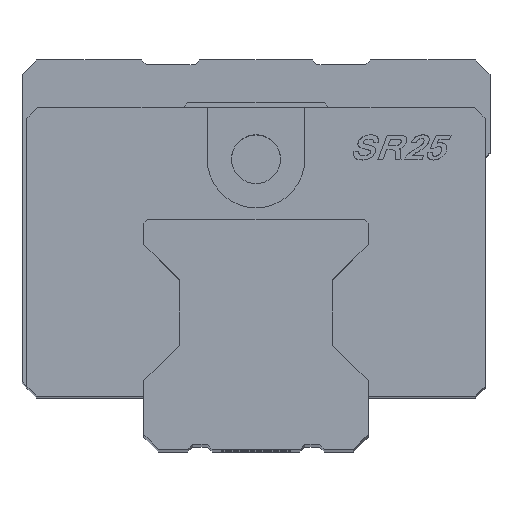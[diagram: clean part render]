
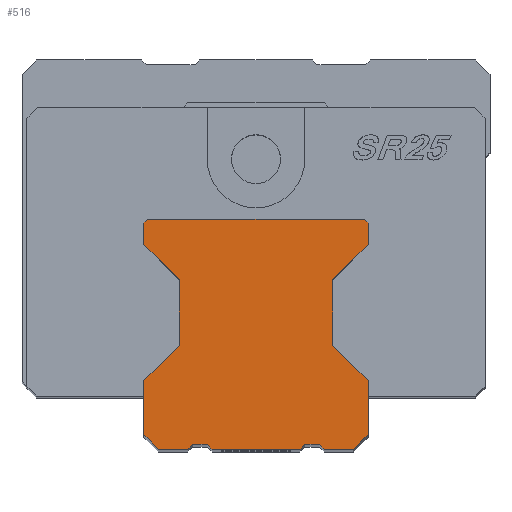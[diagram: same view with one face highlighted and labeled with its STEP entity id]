
A CAD part, top view. The second image highlights one B-rep face of the part: STEP entity #516.
In plain terms, the highlighted planar face has unit normal (0, 0, 1).
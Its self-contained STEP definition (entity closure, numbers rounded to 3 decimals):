
#291=FACE_OUTER_BOUND('',#1181,.T.);
#516=ADVANCED_FACE('',(#291),#738,.T.);
#738=PLANE('',#5096);
#1181=EDGE_LOOP('',(#2302,#2303,#2304,#2305,#2306,#2307,#2308,#2309,#2310,
#2311,#2312,#2313,#2314,#2315,#2316,#2317,#2318,#2319,#2320,#2321,#2322,
#2323,#2324,#2325));
#2302=ORIENTED_EDGE('',*,*,#3765,.F.);
#2303=ORIENTED_EDGE('',*,*,#3789,.F.);
#2304=ORIENTED_EDGE('',*,*,#3847,.F.);
#2305=ORIENTED_EDGE('',*,*,#3848,.F.);
#2306=ORIENTED_EDGE('',*,*,#3849,.F.);
#2307=ORIENTED_EDGE('',*,*,#3850,.F.);
#2308=ORIENTED_EDGE('',*,*,#3851,.F.);
#2309=ORIENTED_EDGE('',*,*,#3852,.F.);
#2310=ORIENTED_EDGE('',*,*,#3841,.F.);
#2311=ORIENTED_EDGE('',*,*,#3838,.F.);
#2312=ORIENTED_EDGE('',*,*,#3836,.F.);
#2313=ORIENTED_EDGE('',*,*,#3834,.F.);
#2314=ORIENTED_EDGE('',*,*,#3832,.F.);
#2315=ORIENTED_EDGE('',*,*,#3830,.F.);
#2316=ORIENTED_EDGE('',*,*,#3828,.F.);
#2317=ORIENTED_EDGE('',*,*,#3787,.F.);
#2318=ORIENTED_EDGE('',*,*,#3768,.F.);
#2319=ORIENTED_EDGE('',*,*,#3785,.F.);
#2320=ORIENTED_EDGE('',*,*,#3784,.F.);
#2321=ORIENTED_EDGE('',*,*,#3782,.F.);
#2322=ORIENTED_EDGE('',*,*,#3780,.F.);
#2323=ORIENTED_EDGE('',*,*,#3774,.F.);
#2324=ORIENTED_EDGE('',*,*,#3772,.F.);
#2325=ORIENTED_EDGE('',*,*,#3770,.F.);
#3229=VERTEX_POINT('',#7266);
#3230=VERTEX_POINT('',#7268);
#3231=VERTEX_POINT('',#7272);
#3232=VERTEX_POINT('',#7274);
#3233=VERTEX_POINT('',#7278);
#3234=VERTEX_POINT('',#7282);
#3235=VERTEX_POINT('',#7286);
#3236=VERTEX_POINT('',#7290);
#3240=VERTEX_POINT('',#7301);
#3241=VERTEX_POINT('',#7305);
#3242=VERTEX_POINT('',#7311);
#3243=VERTEX_POINT('',#7315);
#3271=VERTEX_POINT('',#7394);
#3272=VERTEX_POINT('',#7398);
#3273=VERTEX_POINT('',#7402);
#3274=VERTEX_POINT('',#7406);
#3275=VERTEX_POINT('',#7410);
#3276=VERTEX_POINT('',#7414);
#3277=VERTEX_POINT('',#7418);
#3283=VERTEX_POINT('',#7432);
#3284=VERTEX_POINT('',#7434);
#3285=VERTEX_POINT('',#7436);
#3286=VERTEX_POINT('',#7438);
#3287=VERTEX_POINT('',#7440);
#3765=EDGE_CURVE('',#3230,#3229,#4250,.T.);
#3768=EDGE_CURVE('',#3232,#3231,#4253,.T.);
#3770=EDGE_CURVE('',#3229,#3233,#4255,.T.);
#3772=EDGE_CURVE('',#3233,#3234,#4257,.T.);
#3774=EDGE_CURVE('',#3234,#3235,#4259,.T.);
#3780=EDGE_CURVE('',#3235,#3236,#4261,.T.);
#3782=EDGE_CURVE('',#3236,#3240,#4263,.T.);
#3784=EDGE_CURVE('',#3240,#3241,#4265,.T.);
#3785=EDGE_CURVE('',#3241,#3232,#4266,.T.);
#3787=EDGE_CURVE('',#3231,#3242,#4268,.T.);
#3789=EDGE_CURVE('',#3243,#3230,#4270,.T.);
#3828=EDGE_CURVE('',#3242,#3271,#4305,.T.);
#3830=EDGE_CURVE('',#3271,#3272,#4307,.T.);
#3832=EDGE_CURVE('',#3272,#3273,#4309,.T.);
#3834=EDGE_CURVE('',#3273,#3274,#4311,.T.);
#3836=EDGE_CURVE('',#3274,#3275,#4313,.T.);
#3838=EDGE_CURVE('',#3275,#3276,#4315,.T.);
#3841=EDGE_CURVE('',#3276,#3277,#4318,.T.);
#3847=EDGE_CURVE('',#3283,#3243,#4319,.T.);
#3848=EDGE_CURVE('',#3284,#3283,#4320,.T.);
#3849=EDGE_CURVE('',#3285,#3284,#4321,.T.);
#3850=EDGE_CURVE('',#3286,#3285,#4322,.T.);
#3851=EDGE_CURVE('',#3287,#3286,#4323,.T.);
#3852=EDGE_CURVE('',#3277,#3287,#4324,.T.);
#4250=LINE('',#7269,#4608);
#4253=LINE('',#7275,#4611);
#4255=LINE('',#7279,#4613);
#4257=LINE('',#7283,#4615);
#4259=LINE('',#7287,#4617);
#4261=LINE('',#7298,#4619);
#4263=LINE('',#7302,#4621);
#4265=LINE('',#7306,#4623);
#4266=LINE('',#7308,#4624);
#4268=LINE('',#7312,#4626);
#4270=LINE('',#7316,#4628);
#4305=LINE('',#7393,#4663);
#4307=LINE('',#7397,#4665);
#4309=LINE('',#7401,#4667);
#4311=LINE('',#7405,#4669);
#4313=LINE('',#7409,#4671);
#4315=LINE('',#7413,#4673);
#4318=LINE('',#7419,#4676);
#4319=LINE('',#7431,#4677);
#4320=LINE('',#7433,#4678);
#4321=LINE('',#7435,#4679);
#4322=LINE('',#7437,#4680);
#4323=LINE('',#7439,#4681);
#4324=LINE('',#7441,#4682);
#4608=VECTOR('',#5679,1.);
#4611=VECTOR('',#5684,1.);
#4613=VECTOR('',#5688,1.);
#4615=VECTOR('',#5692,1.);
#4617=VECTOR('',#5696,1.);
#4619=VECTOR('',#5708,1.);
#4621=VECTOR('',#5712,1.);
#4623=VECTOR('',#5716,1.);
#4624=VECTOR('',#5719,1.);
#4626=VECTOR('',#5723,1.);
#4628=VECTOR('',#5727,1.);
#4663=VECTOR('',#5792,1.);
#4665=VECTOR('',#5796,1.);
#4667=VECTOR('',#5800,1.);
#4669=VECTOR('',#5804,1.);
#4671=VECTOR('',#5808,1.);
#4673=VECTOR('',#5812,1.);
#4676=VECTOR('',#5817,1.);
#4677=VECTOR('',#5830,1.);
#4678=VECTOR('',#5831,1.);
#4679=VECTOR('',#5832,1.);
#4680=VECTOR('',#5833,1.);
#4681=VECTOR('',#5834,1.);
#4682=VECTOR('',#5835,1.);
#5096=AXIS2_PLACEMENT_3D('',#7442,#5836,#5837);
#5679=DIRECTION('',(0.,1.,0.));
#5684=DIRECTION('',(0.,-1.,0.));
#5688=DIRECTION('',(-0.707,0.707,0.));
#5692=DIRECTION('',(0.,1.,0.));
#5696=DIRECTION('',(0.707,0.707,0.));
#5708=DIRECTION('',(1.,0.,0.));
#5712=DIRECTION('',(0.707,-0.707,0.));
#5716=DIRECTION('',(0.,-1.,0.));
#5719=DIRECTION('',(-0.707,-0.707,0.));
#5723=DIRECTION('',(0.707,-0.707,0.));
#5727=DIRECTION('',(0.707,0.707,0.));
#5792=DIRECTION('',(0.,-1.,0.));
#5796=DIRECTION('',(-0.707,-0.707,0.));
#5800=DIRECTION('',(-1.,0.,0.));
#5804=DIRECTION('',(-0.707,0.707,0.));
#5808=DIRECTION('',(-1.,0.,0.));
#5812=DIRECTION('',(-0.707,-0.707,0.));
#5817=DIRECTION('',(-1.,0.,0.));
#5830=DIRECTION('',(0.,1.,0.));
#5831=DIRECTION('',(-0.707,0.707,0.));
#5832=DIRECTION('',(-1.,0.,0.));
#5833=DIRECTION('',(-0.707,-0.707,0.));
#5834=DIRECTION('',(-1.,0.,0.));
#5835=DIRECTION('',(-0.707,0.707,0.));
#5836=DIRECTION('',(0.,0.,1.));
#5837=DIRECTION('',(1.,0.,0.));
#7266=CARTESIAN_POINT('',(-7.85,-18.632,80.));
#7268=CARTESIAN_POINT('',(-7.85,-25.307,80.));
#7269=CARTESIAN_POINT('',(-7.85,-25.307,80.));
#7272=CARTESIAN_POINT('',(7.85,-25.307,80.));
#7274=CARTESIAN_POINT('',(7.85,-18.632,80.));
#7275=CARTESIAN_POINT('',(7.85,-18.632,80.));
#7278=CARTESIAN_POINT('',(-11.5,-14.982,80.));
#7279=CARTESIAN_POINT('',(-7.85,-18.632,80.));
#7282=CARTESIAN_POINT('',(-11.5,-12.8,80.));
#7283=CARTESIAN_POINT('',(-11.5,-14.982,80.));
#7286=CARTESIAN_POINT('',(-11.1,-12.4,80.));
#7287=CARTESIAN_POINT('',(-11.5,-12.8,80.));
#7290=CARTESIAN_POINT('',(11.1,-12.4,80.));
#7298=CARTESIAN_POINT('',(-11.1,-12.4,80.));
#7301=CARTESIAN_POINT('',(11.5,-12.8,80.));
#7302=CARTESIAN_POINT('',(11.1,-12.4,80.));
#7305=CARTESIAN_POINT('',(11.5,-14.982,80.));
#7306=CARTESIAN_POINT('',(11.5,-12.8,80.));
#7308=CARTESIAN_POINT('',(11.5,-14.982,80.));
#7311=CARTESIAN_POINT('',(11.5,-28.957,80.));
#7312=CARTESIAN_POINT('',(7.85,-25.307,80.));
#7315=CARTESIAN_POINT('',(-11.5,-28.957,80.));
#7316=CARTESIAN_POINT('',(-11.5,-28.957,80.));
#7393=CARTESIAN_POINT('',(11.5,-28.957,80.));
#7394=CARTESIAN_POINT('',(11.5,-34.5,80.));
#7397=CARTESIAN_POINT('',(11.5,-34.5,80.));
#7398=CARTESIAN_POINT('',(10.,-36.,80.));
#7401=CARTESIAN_POINT('',(10.,-36.,80.));
#7402=CARTESIAN_POINT('',(7.,-36.,80.));
#7405=CARTESIAN_POINT('',(7.,-36.,80.));
#7406=CARTESIAN_POINT('',(6.5,-35.5,80.));
#7409=CARTESIAN_POINT('',(6.5,-35.5,80.));
#7410=CARTESIAN_POINT('',(5.,-35.5,80.));
#7413=CARTESIAN_POINT('',(5.,-35.5,80.));
#7414=CARTESIAN_POINT('',(4.5,-36.,80.));
#7418=CARTESIAN_POINT('',(-4.5,-36.,80.));
#7419=CARTESIAN_POINT('',(4.5,-36.,80.));
#7431=CARTESIAN_POINT('',(-11.5,-34.5,80.));
#7432=CARTESIAN_POINT('',(-11.5,-34.5,80.));
#7433=CARTESIAN_POINT('',(-10.,-36.,80.));
#7434=CARTESIAN_POINT('',(-10.,-36.,80.));
#7435=CARTESIAN_POINT('',(-7.,-36.,80.));
#7436=CARTESIAN_POINT('',(-7.,-36.,80.));
#7437=CARTESIAN_POINT('',(-6.5,-35.5,80.));
#7438=CARTESIAN_POINT('',(-6.5,-35.5,80.));
#7439=CARTESIAN_POINT('',(-5.,-35.5,80.));
#7440=CARTESIAN_POINT('',(-5.,-35.5,80.));
#7441=CARTESIAN_POINT('',(-4.5,-36.,80.));
#7442=CARTESIAN_POINT('',(-12.65,-37.18,80.));
